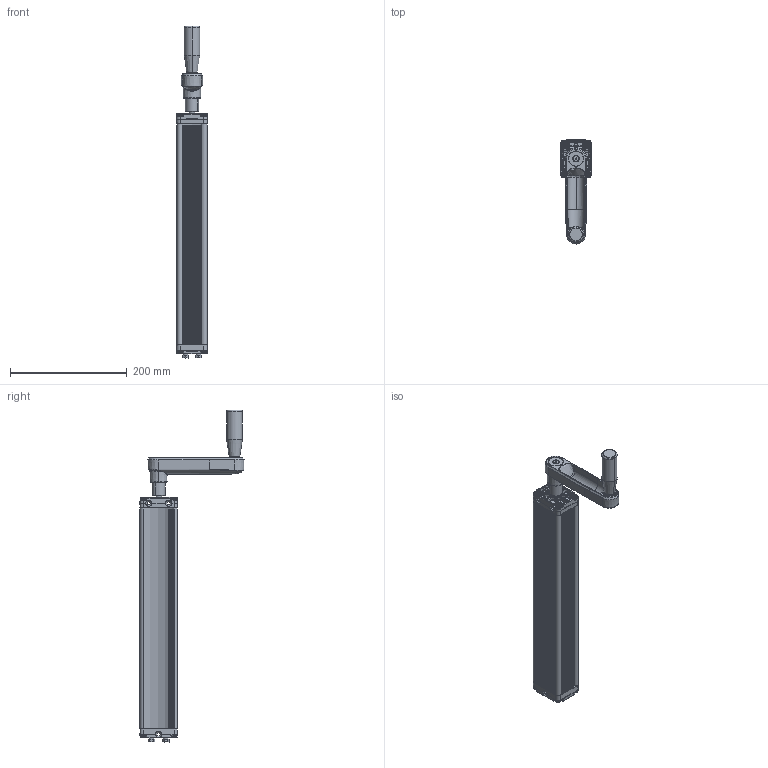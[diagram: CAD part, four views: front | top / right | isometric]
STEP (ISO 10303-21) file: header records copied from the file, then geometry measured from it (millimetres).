
FILE_DESCRIPTION (( 'STEP AP203' ), '1' );
FILE_NAME ('QXY15 Crank.STEP', '2014-01-22T19:14:27', ( '' ), ( '' ), 'SwSTEP 2.0', 'SolidWorks 2013', '' );
FILE_SCHEMA (( 'CONFIG_CONTROL_DESIGN' ));
Length unit declared in the file: millimetre
Products named in the file (1): QXY15 Crank
Bounding box: 52 x 178.32 x 568.84 mm (x, y, z)
Volume: 463056.5 mm3; surface area: 297821.2 mm2
Topology: 31 solids, 31 shells, 3408 faces, 8444 edges, 5143 vertices
Faces by surface type: cylinder 1333, plane 764, cone 476, torus 473, bspline 331, sphere 31
Entity records: 118174 total; most frequent: CARTESIAN_POINT 39462, ORIENTED_EDGE 16782, DIRECTION 16634, EDGE_CURVE 8391, AXIS2_PLACEMENT_3D 6761, VERTEX_POINT 5137, CIRCLE 3683, EDGE_LOOP 3558
